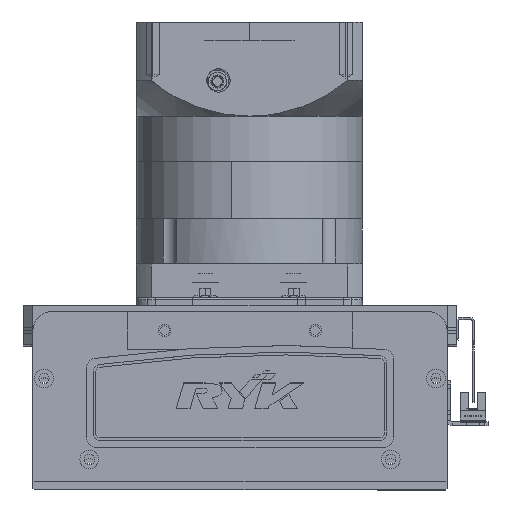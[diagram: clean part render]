
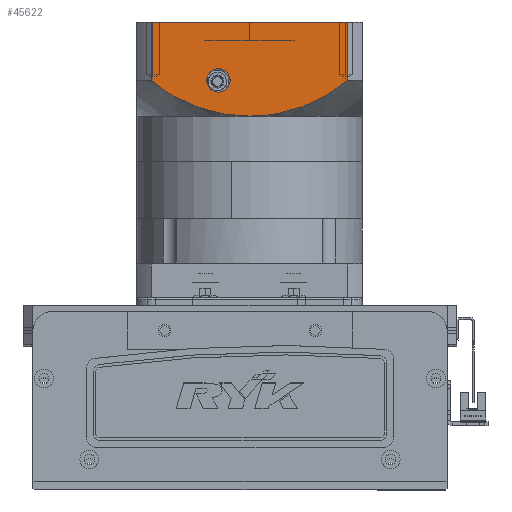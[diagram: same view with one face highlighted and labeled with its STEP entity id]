
A CAD part, top view. The second image highlights one B-rep face of the part: STEP entity #45622.
In plain terms, the highlighted planar face has unit normal (0, 0, 1) as drawn and (0, -1, 0) by its records, which use the part's own axes.
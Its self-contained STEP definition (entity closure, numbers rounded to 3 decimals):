
#3557 = CARTESIAN_POINT ( 'NONE',  ( -11.825, -60., -101.356 ) ) ;
#4378 = DIRECTION ( 'NONE',  ( 1., 0., 0. ) ) ;
#4678 = VERTEX_POINT ( 'NONE', #11097 ) ;
#5928 = LINE ( 'NONE', #12545, #25864 ) ;
#6135 = ORIENTED_EDGE ( 'NONE', *, *, #69405, .F. ) ;
#6805 = PLANE ( 'NONE',  #10483 ) ;
#7739 = CARTESIAN_POINT ( 'NONE',  ( 4.753, -60., -100.5 ) ) ;
#7976 = CARTESIAN_POINT ( 'NONE',  ( 50.338, -60., -117.969 ) ) ;
#8166 = VERTEX_POINT ( 'NONE', #35069 ) ;
#8203 = CARTESIAN_POINT ( 'NONE',  ( 15.267, -60., -101.938 ) ) ;
#8604 = CARTESIAN_POINT ( 'NONE',  ( -9.477, -60., -101.046 ) ) ;
#10483 = AXIS2_PLACEMENT_3D ( 'NONE', #45567, #29568, #12339 ) ;
#11097 = CARTESIAN_POINT ( 'NONE',  ( 52.156, -60., -119.5 ) ) ;
#11713 = CARTESIAN_POINT ( 'NONE',  ( 52.156, -60., -150.5 ) ) ;
#12340 = ORIENTED_EDGE ( 'NONE', *, *, #49012, .F. ) ;
#12339 = DIRECTION ( 'NONE',  ( 1., 0., 0. ) ) ;
#12545 = CARTESIAN_POINT ( 'NONE',  ( 52.156, -60., -150.5 ) ) ;
#13294 = CARTESIAN_POINT ( 'NONE',  ( 19.894, -60., -102.964 ) ) ;
#14074 = AXIS2_PLACEMENT_3D ( 'NONE', #41213, #46779, #63456 ) ;
#14163 = CARTESIAN_POINT ( 'NONE',  ( -8.294, -60., -100.916 ) ) ;
#15005 = CARTESIAN_POINT ( 'NONE',  ( 16.5, -60., -119.5 ) ) ;
#15263 = EDGE_CURVE ( 'NONE', #18949, #31345, #61552, .T. ) ;
#15452 = VECTOR ( 'NONE', #32224, 1000. ) ;
#16161 = VERTEX_POINT ( 'NONE', #11713 ) ;
#17501 = EDGE_CURVE ( 'NONE', #16161, #4678, #5928, .T. ) ;
#18370 = CARTESIAN_POINT ( 'NONE',  ( 9.454, -60., -100.914 ) ) ;
#18857 = CARTESIAN_POINT ( 'NONE',  ( 45.542, -60., -114.478 ) ) ;
#18949 = VERTEX_POINT ( 'NONE', #64284 ) ;
#19497 = CARTESIAN_POINT ( 'NONE',  ( -44.656, -60., -113.73 ) ) ;
#19740 = CARTESIAN_POINT ( 'NONE',  ( -2.376, -60., -100.5 ) ) ;
#19984 = CARTESIAN_POINT ( 'NONE',  ( -39.546, -60., -110.776 ) ) ;
#20346 = CARTESIAN_POINT ( 'NONE',  ( -60., -60., -150.5 ) ) ;
#22145 = FACE_BOUND ( 'NONE', #44540, .T. ) ;
#22297 = B_SPLINE_CURVE_WITH_KNOTS ( 'NONE', 3,
 ( #29307, #7739, #18370, #8203, #46513, #51584, #13294, #23962, #68019, #63431, #57135, #62715, #40704, #35864, #18857, #35620, #7976, #30272 ),
 .UNSPECIFIED., .F., .F.,
 ( 4, 2, 2, 2, 2, 2, 2, 2, 4 ),
 ( 0., 0.014, 0.018, 0.021, 0.028, 0.042, 0.046, 0.05, 0.057 ),
 .UNSPECIFIED. ) ;
#22650 = VERTEX_POINT ( 'NONE', #64511 ) ;
#23458 = DIRECTION ( 'NONE',  ( 0., 0., 1. ) ) ;
#23962 = CARTESIAN_POINT ( 'NONE',  ( 23.329, -60., -103.886 ) ) ;
#25160 = CARTESIAN_POINT ( 'NONE',  ( 0., -60., -100.5 ) ) ;
#25551 = CARTESIAN_POINT ( 'NONE',  ( -35.342, -60., -108.587 ) ) ;
#25864 = VECTOR ( 'NONE', #23458, 1000. ) ;
#28915 = EDGE_CURVE ( 'NONE', #8166, #16161, #60925, .T. ) ;
#29307 = CARTESIAN_POINT ( 'NONE',  ( 0., -60., -100.5 ) ) ;
#29568 = DIRECTION ( 'NONE',  ( 0., -1., 0. ) ) ;
#30272 = CARTESIAN_POINT ( 'NONE',  ( 52.156, -60., -119.5 ) ) ;
#30435 = CARTESIAN_POINT ( 'NONE',  ( -48.52, -60., -116.438 ) ) ;
#31345 = VERTEX_POINT ( 'NONE', #65602 ) ;
#31752 = AXIS2_PLACEMENT_3D ( 'NONE', #15005, #48474, #65142 ) ;
#32224 = DIRECTION ( 'NONE',  ( 0., 0., 1. ) ) ;
#35069 = CARTESIAN_POINT ( 'NONE',  ( -52.156, -60., -150.5 ) ) ;
#35620 = CARTESIAN_POINT ( 'NONE',  ( 48.457, -60., -116.522 ) ) ;
#35797 = ORIENTED_EDGE ( 'NONE', *, *, #28915, .T. ) ;
#35864 = CARTESIAN_POINT ( 'NONE',  ( 44.553, -60., -113.817 ) ) ;
#36742 = CARTESIAN_POINT ( 'NONE',  ( -52.156, -60., -119.5 ) ) ;
#40471 = EDGE_CURVE ( 'NONE', #31345, #18949, #41374, .T. ) ;
#40704 = CARTESIAN_POINT ( 'NONE',  ( 42.555, -60., -112.543 ) ) ;
#41206 = FACE_OUTER_BOUND ( 'NONE', #63829, .T. ) ;
#41213 = CARTESIAN_POINT ( 'NONE',  ( 16.5, -60., -119.5 ) ) ;
#41374 = CIRCLE ( 'NONE', #31752, 6.25 ) ;
#41582 = CARTESIAN_POINT ( 'NONE',  ( -29.939, -60., -106.183 ) ) ;
#41832 = CARTESIAN_POINT ( 'NONE',  ( -36.409, -60., -109.113 ) ) ;
#42062 = CARTESIAN_POINT ( 'NONE',  ( -38.51, -60., -110.207 ) ) ;
#43514 = EDGE_CURVE ( 'NONE', #8166, #22650, #67401, .T. ) ;
#44540 = EDGE_LOOP ( 'NONE', ( #50399, #70783 ) ) ;
#45389 = VECTOR ( 'NONE', #4378, 1000. ) ;
#45567 = CARTESIAN_POINT ( 'NONE',  ( -60., -60., -150.5 ) ) ;
#45622 = ADVANCED_FACE ( 'NONE', ( #41206, #22145 ), #6805, .T. ) ;
#45913 = ORIENTED_EDGE ( 'NONE', *, *, #43514, .F. ) ;
#46513 = CARTESIAN_POINT ( 'NONE',  ( 16.426, -60., -102.169 ) ) ;
#46779 = DIRECTION ( 'NONE',  ( 0., 1., 0. ) ) ;
#47392 = B_SPLINE_CURVE_WITH_KNOTS ( 'NONE', 3,
 ( #36742, #30435, #19497, #19984, #42062, #41832, #25551, #69142, #41582, #69614, #47619, #69371, #3557, #8604, #14163, #52924, #19740, #58482 ),
 .UNSPECIFIED., .F., .F.,
 ( 4, 2, 2, 2, 2, 2, 2, 2, 4 ),
 ( 0., 0.014, 0.018, 0.021, 0.028, 0.042, 0.046, 0.05, 0.057 ),
 .UNSPECIFIED. ) ;
#47619 = CARTESIAN_POINT ( 'NONE',  ( -18.792, -60., -102.562 ) ) ;
#48474 = DIRECTION ( 'NONE',  ( 0., 1., 0. ) ) ;
#49012 = EDGE_CURVE ( 'NONE', #50627, #4678, #22297, .T. ) ;
#50399 = ORIENTED_EDGE ( 'NONE', *, *, #40471, .T. ) ;
#50627 = VERTEX_POINT ( 'NONE', #25160 ) ;
#51584 = CARTESIAN_POINT ( 'NONE',  ( 18.739, -60., -102.681 ) ) ;
#52924 = CARTESIAN_POINT ( 'NONE',  ( -4.747, -60., -100.604 ) ) ;
#57135 = CARTESIAN_POINT ( 'NONE',  ( 36.444, -60., -108.986 ) ) ;
#58482 = CARTESIAN_POINT ( 'NONE',  ( 0., -60., -100.5 ) ) ;
#60925 = LINE ( 'NONE', #20346, #45389 ) ;
#61552 = CIRCLE ( 'NONE', #14074, 6.25 ) ;
#62715 = CARTESIAN_POINT ( 'NONE',  ( 41.545, -60., -111.931 ) ) ;
#63431 = CARTESIAN_POINT ( 'NONE',  ( 32.196, -60., -107.007 ) ) ;
#63456 = DIRECTION ( 'NONE',  ( 0., 0., -1. ) ) ;
#63829 = EDGE_LOOP ( 'NONE', ( #45913, #35797, #70767, #12340, #6135 ) ) ;
#64284 = CARTESIAN_POINT ( 'NONE',  ( 16.5, -60., -113.25 ) ) ;
#64511 = CARTESIAN_POINT ( 'NONE',  ( -52.156, -60., -119.5 ) ) ;
#65142 = DIRECTION ( 'NONE',  ( 0., 0., -1. ) ) ;
#65602 = CARTESIAN_POINT ( 'NONE',  ( 16.5, -60., -125.75 ) ) ;
#65832 = CARTESIAN_POINT ( 'NONE',  ( -52.156, -60., -97.5 ) ) ;
#67401 = LINE ( 'NONE', #65832, #15452 ) ;
#68019 = CARTESIAN_POINT ( 'NONE',  ( 25.577, -60., -104.596 ) ) ;
#69142 = CARTESIAN_POINT ( 'NONE',  ( -32.118, -60., -107.084 ) ) ;
#69371 = CARTESIAN_POINT ( 'NONE',  ( -12.993, -60., -101.537 ) ) ;
#69405 = EDGE_CURVE ( 'NONE', #22650, #50627, #47392, .T. ) ;
#69614 = CARTESIAN_POINT ( 'NONE',  ( -23.319, -60., -103.777 ) ) ;
#70767 = ORIENTED_EDGE ( 'NONE', *, *, #17501, .T. ) ;
#70783 = ORIENTED_EDGE ( 'NONE', *, *, #15263, .T. ) ;
